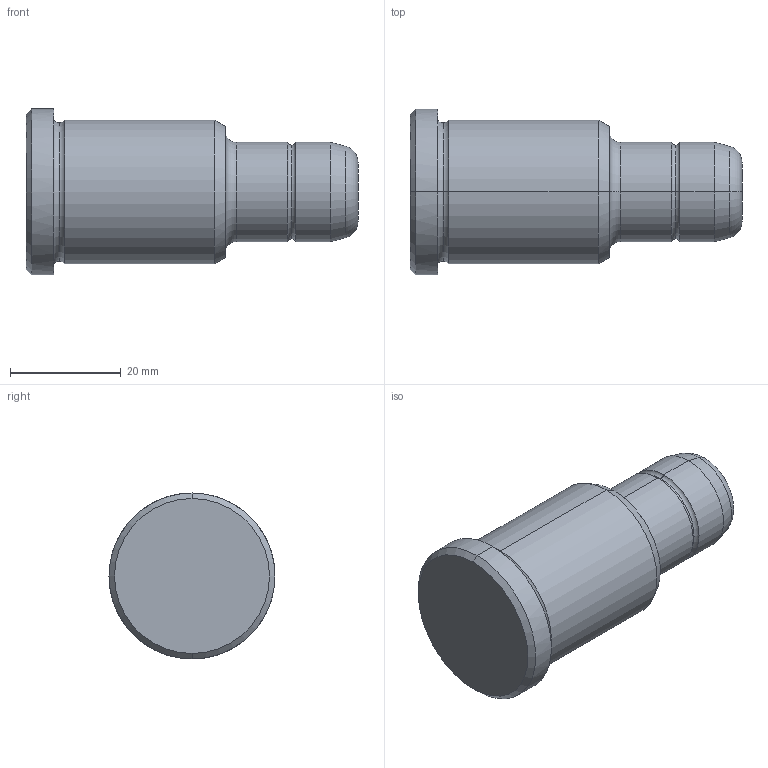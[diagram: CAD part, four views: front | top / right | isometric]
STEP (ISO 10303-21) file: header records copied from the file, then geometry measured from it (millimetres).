
FILE_DESCRIPTION(('CATIA V5 STEP Exchange'),'2;1');
FILE_NAME('C:\Users\Utente\Desktop\IO LAVORO\3D X SITO CF\X SITO\PLASTICA\351\351-18X36X60.stp','2021-08-19T12:44:59+00:00',('none'),('none'),'CATIA Version 5 Release 20 GA (IN-10)','CATIA V5 STEP AP203','none');
FILE_SCHEMA(('CONFIG_CONTROL_DESIGN'));
Length unit declared in the file: millimetre
Products named in the file (1): 351-18X36X60
Bounding box: 60 x 30 x 30 mm (x, y, z)
Volume: 25699.6 mm3; surface area: 5522.9 mm2
Topology: 1 solids, 1 shells, 30 faces, 86 edges, 60 vertices
Faces by surface type: torus 12, cylinder 8, cone 6, plane 4
Entity records: 1112 total; most frequent: CARTESIAN_POINT 289, ORIENTED_EDGE 172, DIRECTION 138, AXIS2_PLACEMENT_3D 95, EDGE_CURVE 86, CIRCLE 64, VERTEX_POINT 60, EDGE_LOOP 32
